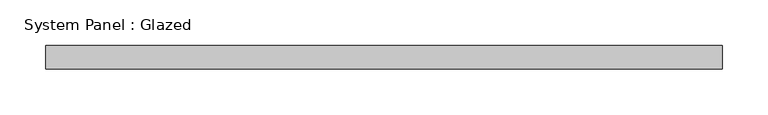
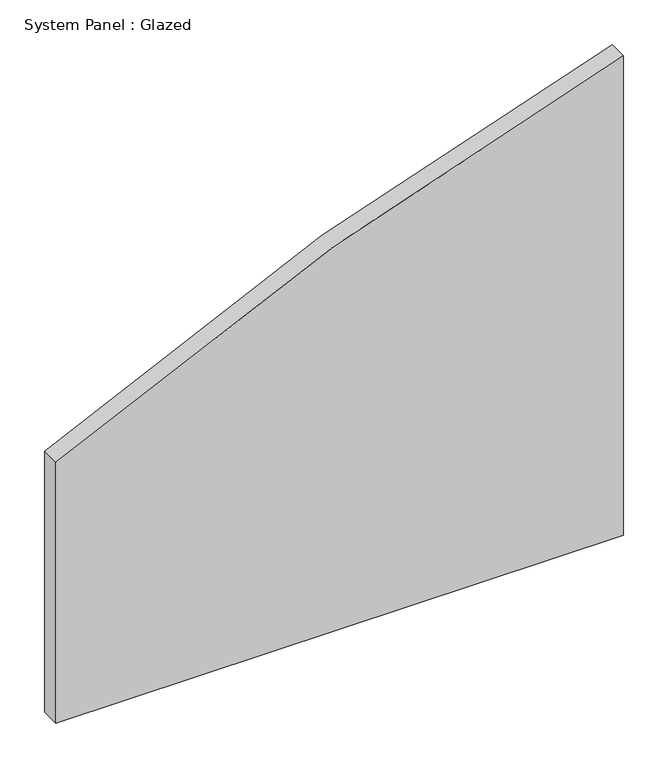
"""IFC4 building model written with IfcOpenShell, lengths in millimetres: plate geometry, System Panel : Glazed."""

from ifc_helpers import new_model, si_unit, point, frame, frame_2d, origin, place, context, project, spatial, polyline, circle_curve, trimmed, segment, composite_curve, outline, extrude, source, transform, mapped, element, save


def system_panel_glazed_89c3e3a8(model_context):
    return source(origin(), model_context, "Body", "SweptSolid", [
        extrude(outline(composite_curve([segment(polyline([(0.0, -368.5261427), (0.0, 368.5261427), (657.8307919, 368.5261427)]), True, "CONTINUOUS"), segment(trimmed(circle_curve(frame_2d((-2861.0640133, 1370.1070355)), 3658.6588985), [point((657.8307919, 368.5261427))], [point((358.0879879, -368.5261427))], False, "CARTESIAN"), True, "CONTINUOUS"), segment(polyline([(358.0879879, -368.5261427), (0.0, -368.5261427)]), True, "CONTINUOUS")], self_intersect=False)), frame((0.0, 19.05, 0.0), z_axis=(0.0, 1.0, 0.0), x_axis=(0.0, 0.0, 1.0)), (0.0, 0.0, 1.0), 25.4),
    ])


if __name__ == "__main__":
    model = new_model("IFC4")
    model_context = context("Model", 3, world=origin())
    ifc_project = project(units=[si_unit("LENGTHUNIT", "METRE", prefix="MILLI")], contexts=[model_context])
    site = spatial("IfcSite", under=ifc_project)
    building = spatial("IfcBuilding", under=site)
    placement = place(None, origin())
    system_panel_glazed_shape = system_panel_glazed_89c3e3a8(model_context)
    element("IfcPlate", 1, ObjectType="System Panel : Glazed", at=placement, inside=building, context=model_context, shape_type="MappedRepresentation", body=[
        mapped(system_panel_glazed_shape, transform((0.0, 0.0, 0.0), x_axis=(1.0, 0.0, 0.0), y_axis=(0.0, 1.0, 0.0), z_axis=(0.0, 0.0, 1.0))),
    ])
    save(model, "model.ifc")
